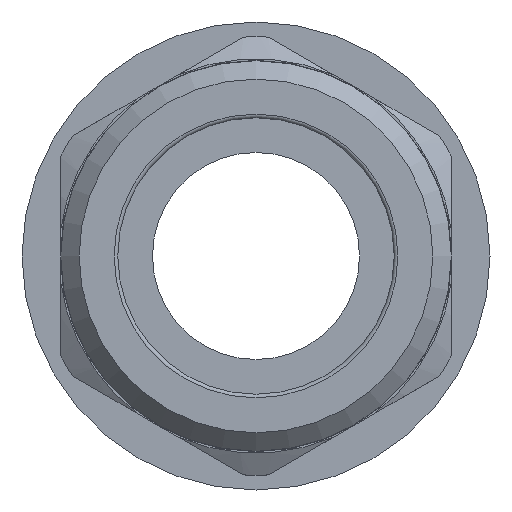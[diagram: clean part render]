
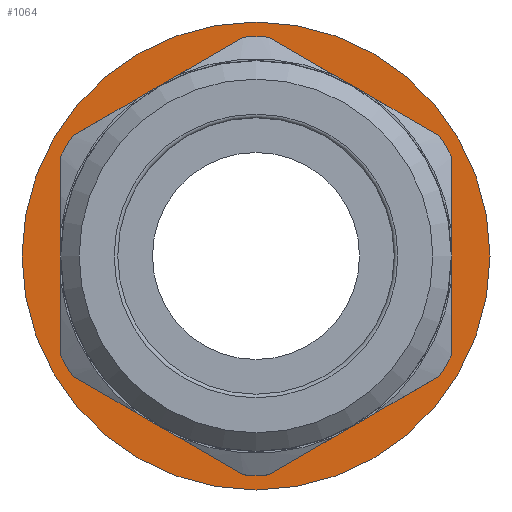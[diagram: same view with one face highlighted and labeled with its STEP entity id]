
A CAD part, front view. The second image highlights one B-rep face of the part: STEP entity #1064.
In plain terms, the highlighted planar face has unit normal (0, -1, 0).
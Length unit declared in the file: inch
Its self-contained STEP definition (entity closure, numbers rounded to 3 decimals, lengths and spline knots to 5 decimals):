
#56=FACE_BOUND('',#198,.T.);
#69=PLANE('',#1193);
#130=FACE_OUTER_BOUND('',#197,.T.);
#197=EDGE_LOOP('',(#815,#816));
#198=EDGE_LOOP('',(#817,#818));
#378=CIRCLE('',#1194,0.635);
#379=CIRCLE('',#1195,0.635);
#380=CIRCLE('',#1196,0.425);
#381=CIRCLE('',#1197,0.425);
#474=VERTEX_POINT('',#1780);
#475=VERTEX_POINT('',#1781);
#476=VERTEX_POINT('',#1784);
#477=VERTEX_POINT('',#1785);
#601=EDGE_CURVE('',#474,#475,#378,.T.);
#602=EDGE_CURVE('',#475,#474,#379,.T.);
#603=EDGE_CURVE('',#476,#477,#380,.T.);
#604=EDGE_CURVE('',#477,#476,#381,.T.);
#815=ORIENTED_EDGE('',*,*,#601,.T.);
#816=ORIENTED_EDGE('',*,*,#602,.T.);
#817=ORIENTED_EDGE('',*,*,#603,.F.);
#818=ORIENTED_EDGE('',*,*,#604,.F.);
#1064=ADVANCED_FACE('',(#130,#56),#69,.T.);
#1193=AXIS2_PLACEMENT_3D('',#1779,#1431,#1432);
#1194=AXIS2_PLACEMENT_3D('',#1782,#1433,#1434);
#1195=AXIS2_PLACEMENT_3D('',#1783,#1435,#1436);
#1196=AXIS2_PLACEMENT_3D('',#1786,#1437,#1438);
#1197=AXIS2_PLACEMENT_3D('',#1787,#1439,#1440);
#1431=DIRECTION('center_axis',(0.,-1.,0.));
#1432=DIRECTION('ref_axis',(0.,0.,-1.));
#1433=DIRECTION('center_axis',(0.,-1.,0.));
#1434=DIRECTION('ref_axis',(1.,0.,0.));
#1435=DIRECTION('center_axis',(0.,-1.,0.));
#1436=DIRECTION('ref_axis',(1.,0.,0.));
#1437=DIRECTION('center_axis',(0.,-1.,0.));
#1438=DIRECTION('ref_axis',(1.,0.,0.));
#1439=DIRECTION('center_axis',(0.,-1.,0.));
#1440=DIRECTION('ref_axis',(1.,0.,0.));
#1779=CARTESIAN_POINT('Origin',(0.,0.,-0.425));
#1780=CARTESIAN_POINT('',(0.,0.,-0.635));
#1781=CARTESIAN_POINT('',(0.,0.,0.635));
#1782=CARTESIAN_POINT('Origin',(0.,0.,0.));
#1783=CARTESIAN_POINT('Origin',(0.,0.,0.));
#1784=CARTESIAN_POINT('',(0.,0.,-0.425));
#1785=CARTESIAN_POINT('',(0.,0.,0.425));
#1786=CARTESIAN_POINT('Origin',(0.,0.,0.));
#1787=CARTESIAN_POINT('Origin',(0.,0.,0.));
